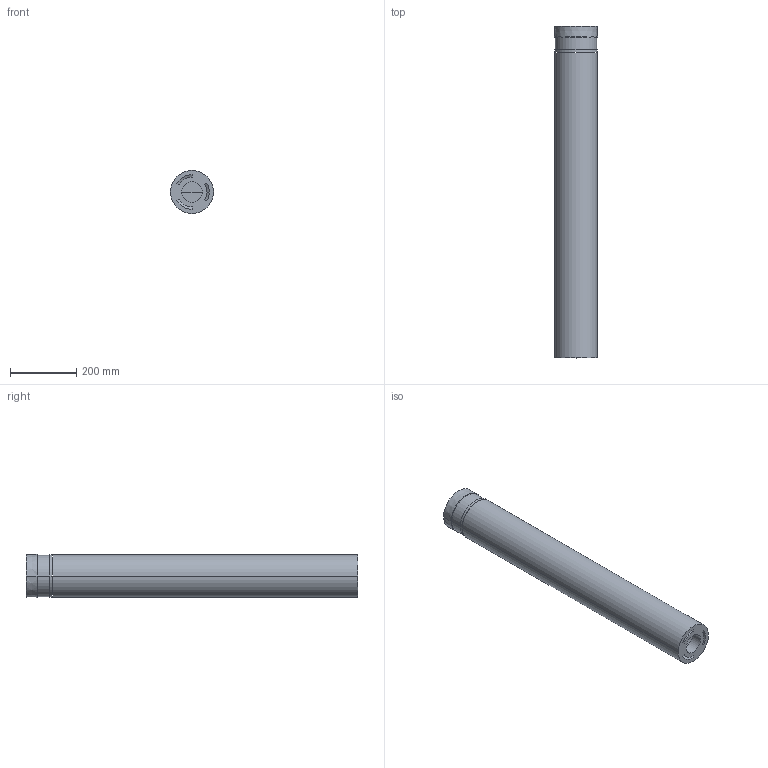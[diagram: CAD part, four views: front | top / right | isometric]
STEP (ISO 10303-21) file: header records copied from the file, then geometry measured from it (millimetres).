
FILE_DESCRIPTION((''),'2;1');
FILE_NAME('PRT0001_SW0005','2025-07-02T08:49:55',('Piccioli'),(''),'CREO PARAMETRIC BY PTC INC, 2025010','CREO PARAMETRIC BY PTC INC, 2025010','');
FILE_SCHEMA(('CONFIG_CONTROL_DESIGN'));
Length unit declared in the file: millimetre
Products named in the file (1): PRT0001_SW0005
Bounding box: 129.72 x 999.02 x 129.72 mm (x, y, z)
Surface area: 790513.7 mm2 (no closed solid volume)
Topology: 0 solids, 6 shells, 26 faces, 88 edges, 62 vertices
Faces by surface type: cone 16, cylinder 8, plane 2
Entity records: 986 total; most frequent: DIRECTION 184, CARTESIAN_POINT 172, ORIENTED_EDGE 124, EDGE_CURVE 84, AXIS2_PLACEMENT_3D 74, VERTEX_POINT 62, CIRCLE 48, VECTOR 36
